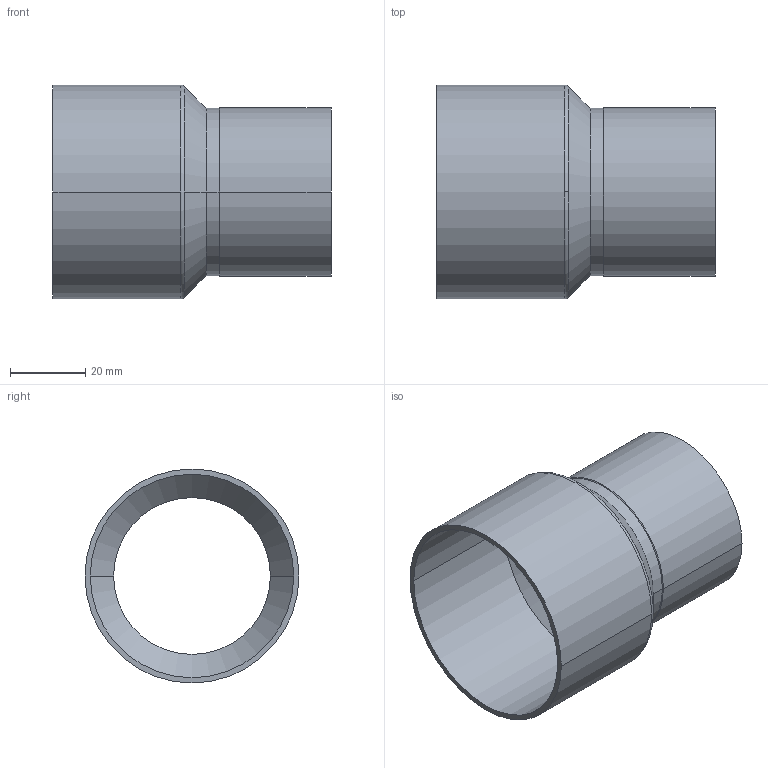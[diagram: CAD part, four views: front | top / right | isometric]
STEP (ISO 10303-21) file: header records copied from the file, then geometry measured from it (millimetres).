
FILE_DESCRIPTION((''),'2;1');
FILE_NAME('G:\Technics\CAD\Bauteile\Serie 15240\152405442.stp','2005-10-21T12:51:17',('boden'),(''),'Autodesk Inventor 8','Autodesk Inventor 8','');
FILE_SCHEMA(('AUTOMOTIVE_DESIGN { 1 0 10303 214 1 1 1 1 }'));
Length unit declared in the file: millimetre
Products named in the file (1): 152405442
Bounding box: 74 x 56.95 x 56.95 mm (x, y, z)
Volume: 16700.6 mm3; surface area: 24293.6 mm2
Topology: 1 solids, 1 shells, 24 faces, 52 edges, 30 vertices
Faces by surface type: cylinder 12, cone 8, torus 2, plane 2
Entity records: 683 total; most frequent: DIRECTION 134, CARTESIAN_POINT 107, ORIENTED_EDGE 104, AXIS2_PLACEMENT_3D 57, EDGE_CURVE 52, CIRCLE 32, VERTEX_POINT 30, EDGE_LOOP 26
